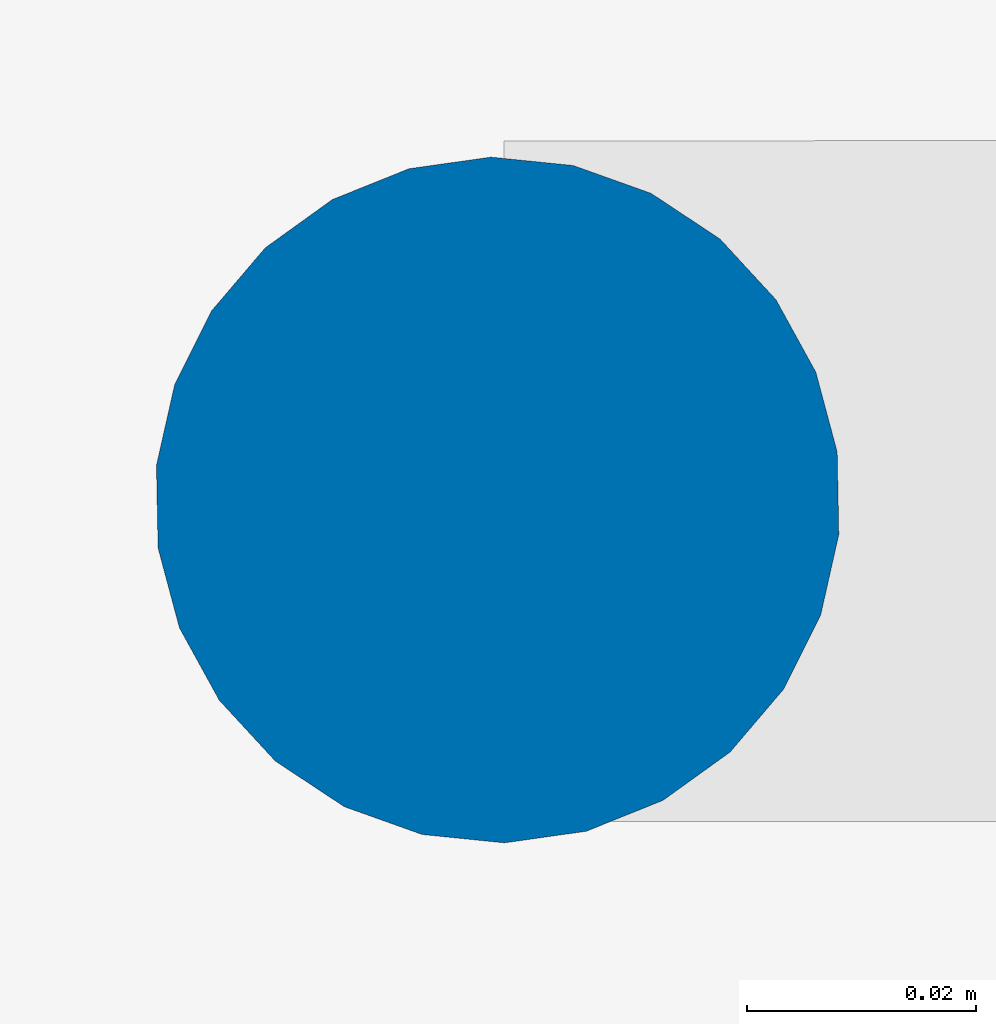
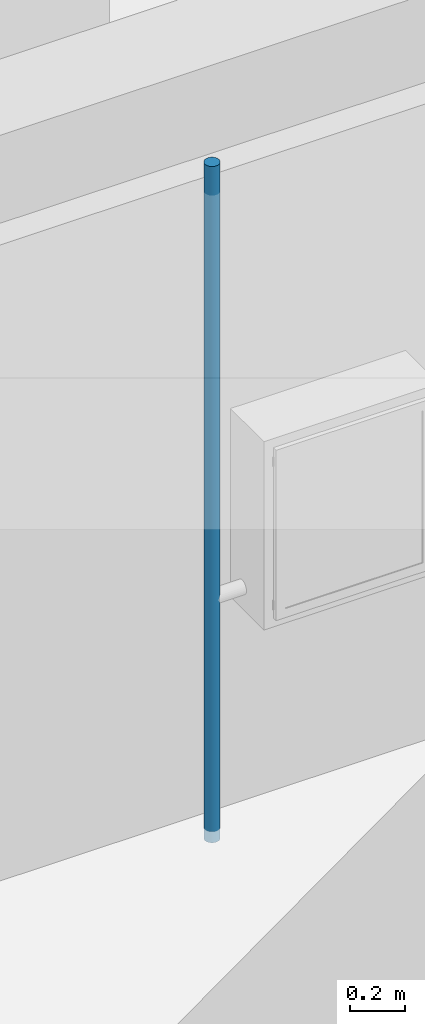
# One storey, part 2 of 196: 1 column.
"""IFC2X3 building model written with IfcOpenShell, lengths in metres."""

import ifcopenshell
import ifcopenshell.guid

model = None  # the IFC model being written
_history = None  # IfcOwnerHistory: only IFC2X3 demands one
_inside = {}  # id of a spatial element -> (the spatial element, [elements in it])
_under = {}  # id of a project, library or spatial element -> (it, [spatial elements below it])
_declared = {}  # id of a project -> (the project, [libraries it declares])
_typed = {}  # id of a type object -> (the type object, [elements of that type])
_made_of = {}  # id of a material, layer set ... -> (it, [elements and type objects made of it])


def new_model(schema):
    """Start an empty IFC model of exactly this schema.

    Asked for "IFC4X3", IfcOpenShell would pick the latest addendum, in which some entities
    have other attributes; the version numbers below select the first issue.
    IFC2X3 requires an IfcOwnerHistory on every rooted entity: one is made here for all.
    """
    global model, _history
    if schema == "IFC4X3":
        model = ifcopenshell.file(schema_version=(4, 3, 0, 0))
    else:
        model = ifcopenshell.file(schema=schema)
    _inside.clear()
    _under.clear()
    _declared.clear()
    _typed.clear()
    _made_of.clear()
    _history = None
    if model.schema == "IFC2X3":
        org = make("IfcOrganization", Name="unknown")
        user = make(
            "IfcPersonAndOrganization",
            ThePerson=make("IfcPerson", FamilyName="unknown"),
            TheOrganization=org,
        )
        app = make(
            "IfcApplication",
            ApplicationDeveloper=org,
            Version="unknown",
            ApplicationFullName="unknown",
            ApplicationIdentifier="unknown",
        )
        _history = make(
            "IfcOwnerHistory",
            OwningUser=user,
            OwningApplication=app,
            ChangeAction="ADDED",
            CreationDate=0,
        )
    return model


def make(cls, **values):
    """One entity of the class cls with the attributes given. An attribute that is None is left unset."""
    return model.create_entity(
        cls, **{name: value for name, value in values.items() if value is not None}
    )


def entity(cls, *values):
    """Any entity or typed value of the class cls, its attributes in the order of the schema. None: left unset."""
    e = model.create_entity(cls)
    for i, value in enumerate(values):
        if value is not None:
            e[i] = value
    return e


def rooted(cls, **values):
    """An entity with a GlobalId (a new one), such as an element, a storey or a relation."""
    return make(cls, GlobalId=ifcopenshell.guid.new(), OwnerHistory=_history, **values)


def si_unit(unit_type, name, prefix=None):
    """IfcSIUnit, for example si_unit("LENGTHUNIT", "METRE", prefix="MILLI")."""
    return make("IfcSIUnit", UnitType=unit_type, Prefix=prefix, Name=name)


def converted_unit(unit_type, name, factor, base, dimensions=None, offset=None):
    """IfcConversionBasedUnit, such as the inch: factor (a typed value) times the base unit."""
    return make(
        "IfcConversionBasedUnit"
        if offset is None
        else "IfcConversionBasedUnitWithOffset",
        ConversionOffset=offset,
        Dimensions=None
        if dimensions is None
        else entity("IfcDimensionalExponents", *dimensions),
        UnitType=unit_type,
        Name=name,
        ConversionFactor=make(
            "IfcMeasureWithUnit", ValueComponent=factor, UnitComponent=base
        ),
    )


def derived_unit(unit_type, elements):
    """IfcDerivedUnit: a product of units, each with its exponent."""
    return make(
        "IfcDerivedUnit",
        Elements=[
            make("IfcDerivedUnitElement", Unit=unit, Exponent=power)
            for unit, power in elements
        ],
        UnitType=unit_type,
    )


def money_unit(currency):
    """IfcMonetaryUnit."""
    return make("IfcMonetaryUnit", Currency=currency)


def assignment(units):
    """IfcUnitAssignment: the units of a project."""
    return None if units is None else make("IfcUnitAssignment", Units=units)


def point(xyz):
    """IfcCartesianPoint."""
    return None if xyz is None else make("IfcCartesianPoint", Coordinates=xyz)


def direction(xyz):
    """IfcDirection."""
    return None if xyz is None else make("IfcDirection", DirectionRatios=xyz)


def frame(location, z_axis=None, x_axis=None):
    """IfcAxis2Placement3D, a coordinate frame: its origin and axes. An axis left out is left unset."""
    return make(
        "IfcAxis2Placement3D",
        Location=point(location),
        Axis=direction(z_axis),
        RefDirection=direction(x_axis),
    )


def frame_2d(location, x_axis=None):
    """IfcAxis2Placement2D, a coordinate frame in the plane: its origin and x axis."""
    return make(
        "IfcAxis2Placement2D", Location=point(location), RefDirection=direction(x_axis)
    )


def origin_with_axes():
    """The frame at (0, 0, 0) with the z axis (0, 0, 1) and the x axis (1, 0, 0) written out."""
    return frame((0.0, 0.0, 0.0), z_axis=(0.0, 0.0, 1.0), x_axis=(1.0, 0.0, 0.0))


def origin_2d_with_axis():
    """The frame at (0, 0) in the plane with the x axis (1, 0) written out."""
    return frame_2d((0.0, 0.0), x_axis=(1.0, 0.0))


def place(relative_to, where):
    """IfcLocalPlacement: puts the frame where relative to a parent placement (None: the world)."""
    return make(
        "IfcLocalPlacement", PlacementRelTo=relative_to, RelativePlacement=where
    )


def context(
    kind, dimensions, precision=None, world=None, true_north=None, identifier=None
):
    """IfcGeometricRepresentationContext, for example the 3D "Model" context."""
    return make(
        "IfcGeometricRepresentationContext",
        ContextIdentifier=identifier,
        ContextType=kind,
        CoordinateSpaceDimension=dimensions,
        Precision=precision,
        WorldCoordinateSystem=world,
        TrueNorth=true_north,
    )


def subcontext(parent, identifier, kind, view, scale=None):
    """IfcGeometricRepresentationSubContext, for example "Body" below "Model"."""
    return make(
        "IfcGeometricRepresentationSubContext",
        ContextIdentifier=identifier,
        ContextType=kind,
        ParentContext=parent,
        TargetScale=scale,
        TargetView=view,
    )


def project(units=None, contexts=None):
    """IfcProject with its units and contexts."""
    return rooted(
        "IfcProject",
        Name="project",
        RepresentationContexts=contexts,
        UnitsInContext=assignment(units),
    )


def spatial(cls, under=None, at=None, **own):
    """A site, building, storey or space (cls), placed at a placement, below another one or the project."""
    s = rooted(cls, ObjectPlacement=at, **own)
    if under is not None:
        _under.setdefault(under.id(), (under, []))[1].append(s)
    return s


def profile(cls, at=None, kind="AREA", **sizes):
    """A parametric profile (cls). Its sizes go by their IFC names, for example OverallWidth=200.0."""
    return make(cls, ProfileType=kind, Position=at, **sizes)


def circle(**sizes):
    """IfcCircleProfileDef."""
    return profile("IfcCircleProfileDef", **sizes)


def extrude(swept, where, along, depth):
    """IfcExtrudedAreaSolid: the profile swept, set in the frame where, extruded along a direction by depth."""
    return make(
        "IfcExtrudedAreaSolid",
        SweptArea=swept,
        Position=where,
        ExtrudedDirection=direction(along),
        Depth=depth,
    )


def shape(context_of_items, identifier, shape_type, items):
    """IfcShapeRepresentation: the items that make up one representation, for example the "Body"."""
    return make(
        "IfcShapeRepresentation",
        ContextOfItems=context_of_items,
        RepresentationIdentifier=identifier,
        RepresentationType=shape_type,
        Items=items,
    )


def material(Name=None, Category=None):
    """IfcMaterial."""
    return make("IfcMaterial", Name=Name, Category=Category)


def made_of(thing, what):
    """Note that an element or type object is made of a material, layer set ...; save() writes the relation."""
    if what is not None:
        _made_of.setdefault(what.id(), (what, []))[1].append(thing)
    return thing


def type_object(cls, material=None, **own):
    """A type object (cls), such as IfcWallType, which elements share."""
    return made_of(rooted(cls, **own), material)


def element(
    cls,
    number,
    at=None,
    inside=None,
    cuts=None,
    type_object=None,
    material=None,
    context=None,
    identifier="Body",
    shape_type=None,
    held_by="IfcProductDefinitionShape",
    body=None,
    shapes=None,
    **own,
):
    """One element of the class cls, such as IfcWall. Its Tag is "e" and its number.

    at: its placement. inside: the storey or other place that contains it. cuts: it is an
    opening in that element (IfcRelVoidsElement). A single representation is given by context,
    identifier, shape_type and body (its items); several are given by shapes. held_by: the class
    of the entity that holds the representations. save() writes the other relations.
    """
    e = rooted(cls, Tag="e%d" % number, ObjectPlacement=at, **own)
    if body is not None:
        shapes = [shape(context, identifier, shape_type, body)]
    if shapes is not None:
        e.Representation = make(held_by, Representations=shapes)
    if inside is not None:
        _inside.setdefault(inside.id(), (inside, []))[1].append(e)
    if cuts is not None:
        rooted(
            "IfcRelVoidsElement", RelatingBuildingElement=cuts, RelatedOpeningElement=e
        )
    if type_object is not None:
        _typed.setdefault(type_object.id(), (type_object, []))[1].append(e)
    return made_of(e, material)


def aggregate(whole, parts):
    """IfcRelAggregates: a whole, such as a stair, and the parts it consists of."""
    return rooted("IfcRelAggregates", RelatingObject=whole, RelatedObjects=parts)


def save(model, path):
    """Write the relations noted so far, then the file.

    IfcRelAggregates (storeys below a building ...), IfcRelContainedInSpatialStructure (elements
    in a storey), IfcRelDefinesByType, IfcRelAssociatesMaterial and IfcRelDeclares: one each for
    every whole, place, type object, material and project.
    """
    for whole, parts in _under.values():
        aggregate(whole, parts)
    for where, things in _inside.values():
        rooted(
            "IfcRelContainedInSpatialStructure",
            RelatedElements=things,
            RelatingStructure=where,
        )
    for kind, things in _typed.values():
        rooted("IfcRelDefinesByType", RelatedObjects=things, RelatingType=kind)
    for what, things in _made_of.values():
        rooted("IfcRelAssociatesMaterial", RelatedObjects=things, RelatingMaterial=what)
    for by, libraries in _declared.values():
        rooted("IfcRelDeclares", RelatingContext=by, RelatedDefinitions=libraries)
    model.write(path)


model = new_model("IFC2X3")

# Units and contexts
model_context = context("Model", 3, precision=1e-05, world=origin_with_axes(), true_north=direction((0.0, 1.0)))
body_context = subcontext(model_context, "Body", "Model", "MODEL_VIEW")
ifc_project = project(units=[si_unit("LENGTHUNIT", "METRE"), si_unit("AREAUNIT", "SQUARE_METRE"), si_unit("VOLUMEUNIT", "CUBIC_METRE"), converted_unit("PLANEANGLEUNIT", "DEGREE", entity("IfcPlaneAngleMeasure", 0.0174532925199), si_unit("PLANEANGLEUNIT", "RADIAN"), dimensions=[0, 0, 0, 0, 0, 0, 0]), money_unit("EUR"), converted_unit("TIMEUNIT", "Year", entity("IfcTimeMeasure", 31556926.0), si_unit("TIMEUNIT", "SECOND"), dimensions=[0, 0, 1, 0, 0, 0, 0]), si_unit("MASSUNIT", "GRAM", prefix="KILO"), si_unit("THERMODYNAMICTEMPERATUREUNIT", "DEGREE_CELSIUS"), si_unit("LUMINOUSINTENSITYUNIT", "LUMEN"), si_unit("ENERGYUNIT", "JOULE", prefix="MEGA"), derived_unit("THERMALCONDUCTANCEUNIT", [(si_unit("POWERUNIT", "WATT"), 1), (si_unit("LENGTHUNIT", "METRE"), -1), (si_unit("THERMODYNAMICTEMPERATUREUNIT", "KELVIN"), -1)]), derived_unit("SPECIFICHEATCAPACITYUNIT", [(si_unit("ENERGYUNIT", "JOULE"), 1), (si_unit("MASSUNIT", "GRAM", prefix="KILO"), -1), (si_unit("THERMODYNAMICTEMPERATUREUNIT", "KELVIN"), -1)]), derived_unit("MASSDENSITYUNIT", [(si_unit("MASSUNIT", "GRAM", prefix="KILO"), 1), (si_unit("VOLUMEUNIT", "CUBIC_METRE"), -1)])], contexts=[model_context])

# Site, building, storey
site_placement = place(None, origin_with_axes())
site = spatial("IfcSite", under=ifc_project, at=site_placement, Name="Gelände", CompositionType="ELEMENT")
building_placement = place(site_placement, origin_with_axes())
building = spatial("IfcBuilding", under=site, at=building_placement, Name="Gebäude", CompositionType="ELEMENT")
storey_placement = place(building_placement, frame((0.0, 0.0, -3.0), z_axis=(0.0, 0.0, 1.0), x_axis=(1.0, 0.0, 0.0)))
storey = spatial("IfcBuildingStorey", under=building, at=storey_placement, Name="KELLERGESCHOSS", CompositionType="ELEMENT", Elevation=-3.0)

# Column
ifc_material = material(Name="56_Metall, Stahl verzinkt")
column_type = type_object("IfcColumnType", Name="56_Metall, Stahl verzinkt D60", PredefinedType="COLUMN")
column_placement = place(storey_placement, frame((5.13513762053, 19.0720986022, -0.081788), z_axis=(0.0, 0.0, 1.0), x_axis=(1.0, 0.0, 0.0)))
element("IfcColumn", 1, at=column_placement, inside=storey, type_object=column_type, material=ifc_material, Name="Stütze-008", ObjectType="COLUMN", context=body_context, shape_type="SweptSolid", body=[
    extrude(circle(Radius=0.03, at=origin_2d_with_axis()), frame((0.0, 0.0, 0.0), z_axis=(0.0, 0.0, 1.0), x_axis=(0.0198104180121, -0.999803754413, 0.0)), (0.0, 0.0, 1.0), 3.0),
])

save(model, "model.ifc")
